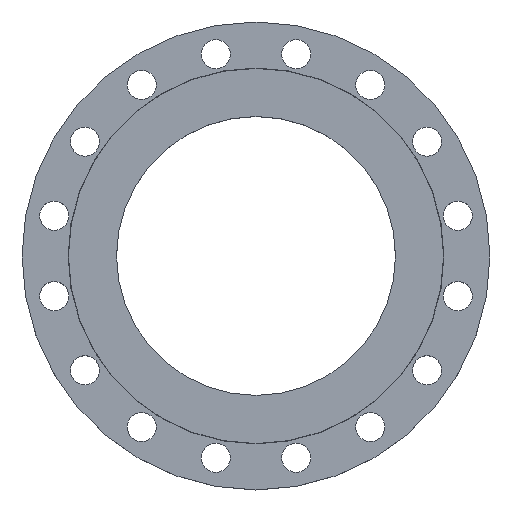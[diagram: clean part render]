
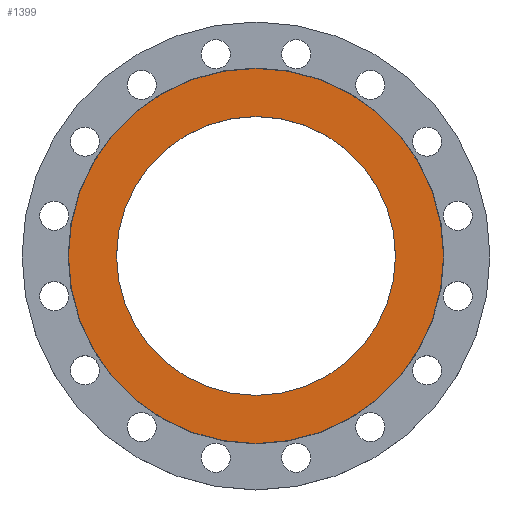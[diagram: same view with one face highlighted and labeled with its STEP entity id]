
A CAD part, top view. The second image highlights one B-rep face of the part: STEP entity #1399.
In plain terms, the highlighted planar face has unit normal (0, 0, 1).
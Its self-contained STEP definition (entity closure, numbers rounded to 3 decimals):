
#16 = EDGE_CURVE ( 'NONE', #947, #465, #1494, .T. ) ;
#69 = CARTESIAN_POINT ( 'NONE',  ( 172.835, 0., 0. ) ) ;
#224 = CIRCLE ( 'NONE', #675, 172.835 ) ;
#237 = DIRECTION ( 'NONE',  ( 1., 0., 0. ) ) ;
#238 = DIRECTION ( 'NONE',  ( 0., 0., 1. ) ) ;
#240 = CARTESIAN_POINT ( 'NONE',  ( 0., 0., 0. ) ) ;
#324 = AXIS2_PLACEMENT_3D ( 'NONE', #1187, #1186, #1184 ) ;
#337 = EDGE_LOOP ( 'NONE', ( #879, #894 ) ) ;
#408 = CIRCLE ( 'NONE', #707, 232.5 ) ;
#465 = VERTEX_POINT ( 'NONE', #69 ) ;
#530 = DIRECTION ( 'NONE',  ( 1., 0., 0. ) ) ;
#531 = DIRECTION ( 'NONE',  ( 0., 0., 1. ) ) ;
#532 = CARTESIAN_POINT ( 'NONE',  ( 0., 0., 0. ) ) ;
#534 = PLANE ( 'NONE',  #1037 ) ;
#535 = FACE_OUTER_BOUND ( 'NONE', #1030, .T. ) ;
#538 = FACE_BOUND ( 'NONE', #337, .T. ) ;
#675 = AXIS2_PLACEMENT_3D ( 'NONE', #1273, #1272, #1271 ) ;
#707 = AXIS2_PLACEMENT_3D ( 'NONE', #1131, #1130, #1129 ) ;
#879 = ORIENTED_EDGE ( 'NONE', *, *, #1044, .F. ) ;
#894 = ORIENTED_EDGE ( 'NONE', *, *, #16, .F. ) ;
#895 = ORIENTED_EDGE ( 'NONE', *, *, #1196, .F. ) ;
#896 = ORIENTED_EDGE ( 'NONE', *, *, #1126, .F. ) ;
#940 = VERTEX_POINT ( 'NONE', #1401 ) ;
#947 = VERTEX_POINT ( 'NONE', #1388 ) ;
#1020 = VERTEX_POINT ( 'NONE', #1318 ) ;
#1030 = EDGE_LOOP ( 'NONE', ( #895, #896 ) ) ;
#1037 = AXIS2_PLACEMENT_3D ( 'NONE', #532, #531, #530 ) ;
#1040 = CIRCLE ( 'NONE', #324, 232.5 ) ;
#1044 = EDGE_CURVE ( 'NONE', #465, #947, #224, .T. ) ;
#1126 = EDGE_CURVE ( 'NONE', #940, #1020, #1040, .T. ) ;
#1129 = DIRECTION ( 'NONE',  ( -1., 0., 0. ) ) ;
#1130 = DIRECTION ( 'NONE',  ( 0., 0., -1. ) ) ;
#1131 = CARTESIAN_POINT ( 'NONE',  ( 0., 0., 0. ) ) ;
#1174 = AXIS2_PLACEMENT_3D ( 'NONE', #240, #238, #237 ) ;
#1184 = DIRECTION ( 'NONE',  ( -1., 0., 0. ) ) ;
#1186 = DIRECTION ( 'NONE',  ( 0., 0., -1. ) ) ;
#1187 = CARTESIAN_POINT ( 'NONE',  ( 0., 0., 0. ) ) ;
#1196 = EDGE_CURVE ( 'NONE', #1020, #940, #408, .T. ) ;
#1271 = DIRECTION ( 'NONE',  ( 1., 0., 0. ) ) ;
#1272 = DIRECTION ( 'NONE',  ( 0., 0., 1. ) ) ;
#1273 = CARTESIAN_POINT ( 'NONE',  ( 0., 0., 0. ) ) ;
#1318 = CARTESIAN_POINT ( 'NONE',  ( -232.5, 0., 0. ) ) ;
#1388 = CARTESIAN_POINT ( 'NONE',  ( -172.835, 0., 0. ) ) ;
#1399 = ADVANCED_FACE ( 'NONE', ( #538, #535 ), #534, .T. ) ;
#1401 = CARTESIAN_POINT ( 'NONE',  ( 232.5, 0., 0. ) ) ;
#1494 = CIRCLE ( 'NONE', #1174, 172.835 ) ;
